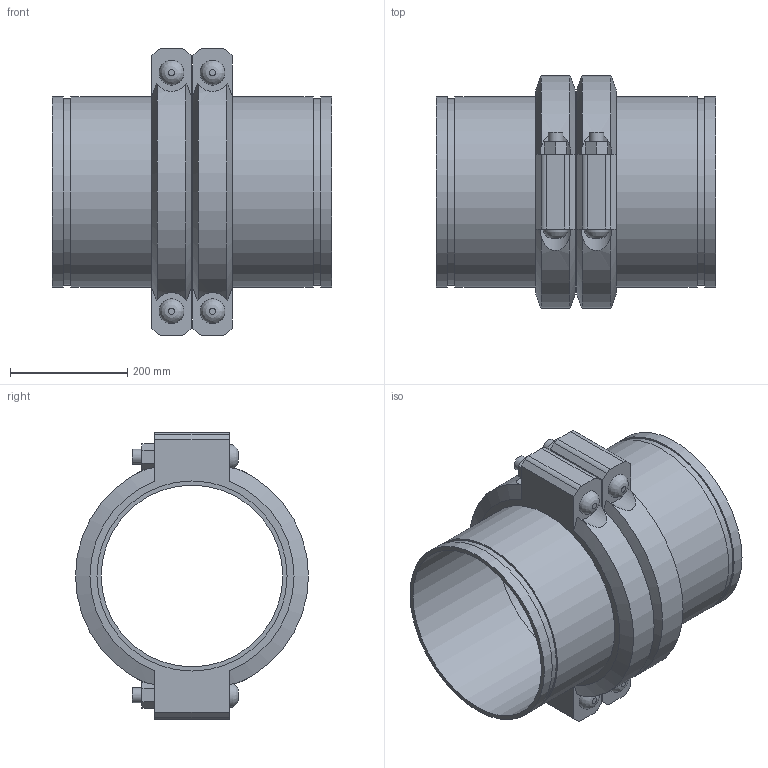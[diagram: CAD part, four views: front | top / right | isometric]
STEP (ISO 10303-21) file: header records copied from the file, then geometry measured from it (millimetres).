
FILE_DESCRIPTION(/* description */ ('VIC SS EXPANSION JOINT 2 COUPLINGS COMPRESSED STYLE 155P (OGS) (POTABLE WATER) ','CAx-IF Rec.Pracs.---Representation and Presentation of Product Manufacturing Information (PMI)---4.0---2014-10-13'),/* implementation_level */ '2;1');
FILE_NAME(/* name */ 'C:\Users\kkamble\AppData\Roaming\Autodesk\ApplicationPlugins\Victaulic.Temp\A462\Victaulic_SS_Expansion Joint_Compressed_2 Couplings_Style 155P (OGS)-Potable Water_2 Coup_Comp_12 (300).stp',/* time_stamp */ '2021-07-16T17:09:54+06:00',/* author */ ('kkamble'),/* organization */ ('Victaulic'),/* preprocessor_version */ 'ST-DEVELOPER v17.2',/* originating_system */ 'Autodesk Inventor 2019',/* authorisation */ '');
FILE_SCHEMA (('CONFIG_CONTROL_DESIGN','AP242_MANAGED_MODEL_BASED_3D_ENGINEERING_MIM_LF { 1 0 10303 442 1 1 4 }'));
Length unit declared in the file: inch
Products named in the file (4): 155P-12.0; Nipple-12.0; Nipple-12.0_1; 077-12.0
Assembly tree (5 placements, depth 2):
  155P-12.0
    Nipple-12.0  x2
    Nipple-12.0_1
    077-12.0  x2
Bounding box: 476.25 x 397 x 488.95 mm (x, y, z)
Volume: 9940883.2 mm3; surface area: 1644929.3 mm2
Topology: 5 solids, 9 shells, 150 faces, 368 edges, 260 vertices
Faces by surface type: plane 86, cylinder 52, cone 8, bspline 4
Full cylindrical faces by diameter (mm): 25.4 x8, 27.432 x4, 309.677 x3, 318.287 x6, 323.85 x11
Entity records: 2897 total; most frequent: CARTESIAN_POINT 639, DIRECTION 447, ORIENTED_EDGE 398, EDGE_CURVE 199, AXIS2_PLACEMENT_3D 180, VERTEX_POINT 142, EDGE_LOOP 105, CIRCLE 92
